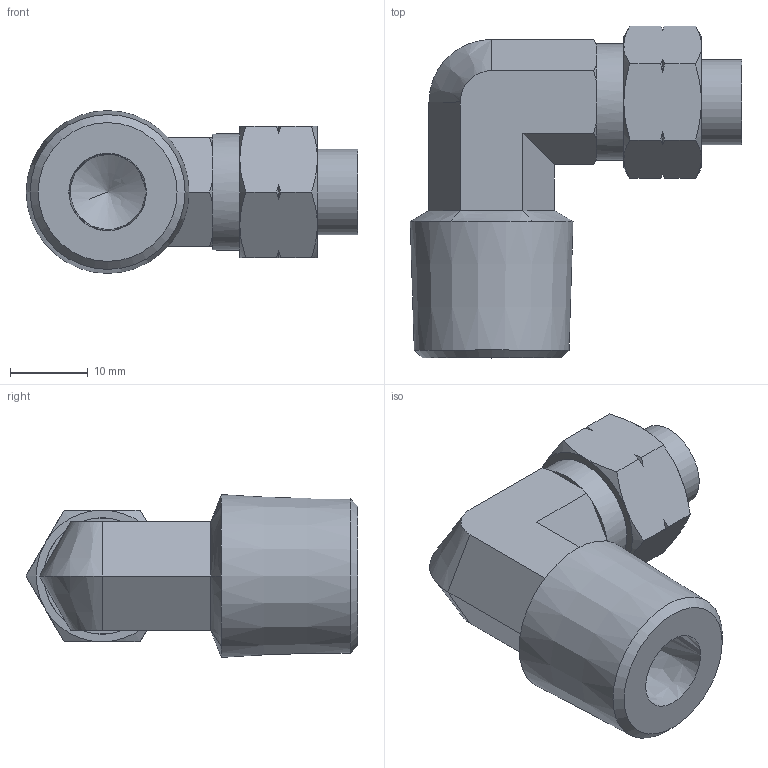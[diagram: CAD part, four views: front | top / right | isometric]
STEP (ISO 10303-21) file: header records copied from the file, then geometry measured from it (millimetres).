
FILE_DESCRIPTION((''),'2;1');
FILE_NAME('D:\INVENTOR\[New Inventor]\CDC Products 3D Ass''y\Two-Touch Fittings\Metric\CL\CL10-6.5--04.stp','2009-02-23T16:31:32',('Microsoft'),(''),'Autodesk Inventor 2008','Autodesk Inventor 2008','');
FILE_SCHEMA(('AUTOMOTIVE_DESIGN { 1 0 10303 214 1 1 1 1 }'));
Length unit declared in the file: millimetre
Products named in the file (1): CL10-6
Bounding box: 42.77 x 42.81 x 21 mm (x, y, z)
Volume: 9924.8 mm3; surface area: 6330.7 mm2
Topology: 1 solids, 1 shells, 76 faces, 177 edges, 105 vertices
Faces by surface type: cone 33, plane 27, bspline 10, cylinder 5, torus 1
Full cylindrical faces by diameter (mm): 5 x1, 6.3 x1, 10.2 x1, 11 x1, 15 x1
Entity records: 2285 total; most frequent: CARTESIAN_POINT 804, ORIENTED_EDGE 322, DIRECTION 276, EDGE_CURVE 161, AXIS2_PLACEMENT_3D 117, VERTEX_POINT 100, EDGE_LOOP 91, FACE_OUTER_BOUND 76
